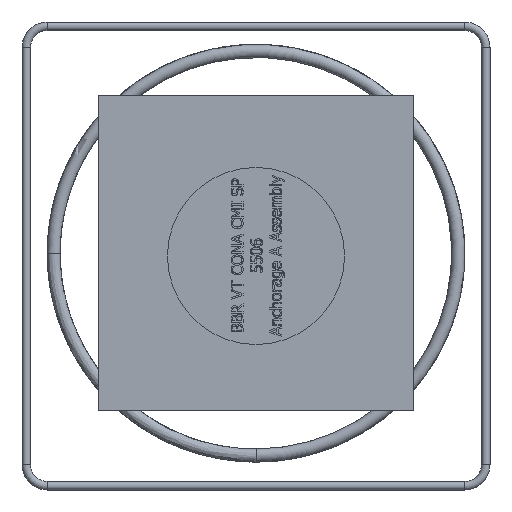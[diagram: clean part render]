
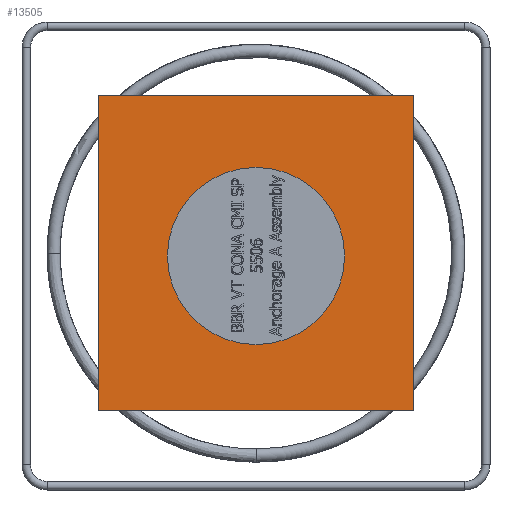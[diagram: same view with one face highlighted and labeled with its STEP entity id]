
A CAD part, left-side view. The second image highlights one B-rep face of the part: STEP entity #13505.
In plain terms, the highlighted planar face has unit normal (-1, 0, 0).
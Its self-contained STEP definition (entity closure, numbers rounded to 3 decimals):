
#1996=LINE('',#29995,#3065);
#2000=LINE('',#30002,#3069);
#2003=LINE('',#30007,#3072);
#2006=LINE('',#30011,#3075);
#3065=VECTOR('',#16025,595.);
#3069=VECTOR('',#16031,595.);
#3072=VECTOR('',#16036,595.);
#3075=VECTOR('',#16041,595.);
#3390=PLANE('',#14004);
#3570=FACE_BOUND('',#5146,.T.);
#4302=FACE_OUTER_BOUND('',#5145,.T.);
#5145=EDGE_LOOP('',(#11907,#11908,#11909,#11910));
#5146=EDGE_LOOP('',(#11911));
#5302=CIRCLE('',#13962,167.5);
#6529=VERTEX_POINT('',#23771);
#6556=VERTEX_POINT('',#29993);
#6557=VERTEX_POINT('',#29994);
#6559=VERTEX_POINT('',#30001);
#6560=VERTEX_POINT('',#30006);
#8323=EDGE_CURVE('',#6529,#6529,#5302,.T.);
#8352=EDGE_CURVE('',#6556,#6557,#1996,.T.);
#8356=EDGE_CURVE('',#6557,#6559,#2000,.T.);
#8359=EDGE_CURVE('',#6559,#6560,#2003,.T.);
#8362=EDGE_CURVE('',#6560,#6556,#2006,.T.);
#11907=ORIENTED_EDGE('',*,*,#8362,.T.);
#11908=ORIENTED_EDGE('',*,*,#8352,.T.);
#11909=ORIENTED_EDGE('',*,*,#8356,.T.);
#11910=ORIENTED_EDGE('',*,*,#8359,.T.);
#11911=ORIENTED_EDGE('',*,*,#8323,.T.);
#13505=ADVANCED_FACE('',(#4302,#3570),#3390,.T.);
#13962=AXIS2_PLACEMENT_3D('',#23772,#15941,#15942);
#14004=AXIS2_PLACEMENT_3D('',#30013,#16043,#16044);
#15941=DIRECTION('center_axis',(1.,0.,0.));
#15942=DIRECTION('ref_axis',(0.,0.,
-1.));
#16025=DIRECTION('',(0.,0.,-1.));
#16031=DIRECTION('',(0.,-1.,0.));
#16036=DIRECTION('',(0.,0.,1.));
#16041=DIRECTION('',(0.,1.,0.));
#16043=DIRECTION('center_axis',(-1.,0.,0.));
#16044=DIRECTION('ref_axis',(0.,0.,-1.));
#23771=CARTESIAN_POINT('',(-112.151,0.,-167.5));
#23772=CARTESIAN_POINT('Origin',(-112.151,0.,
0.));
#29993=CARTESIAN_POINT('',(-112.151,297.5,302.753));
#29994=CARTESIAN_POINT('',(-112.151,297.5,-292.247));
#29995=CARTESIAN_POINT('',(-112.151,297.5,302.753));
#30001=CARTESIAN_POINT('',(-112.151,-297.5,-292.247));
#30002=CARTESIAN_POINT('',(-112.151,297.5,-292.247));
#30006=CARTESIAN_POINT('',(-112.151,-297.5,302.753));
#30007=CARTESIAN_POINT('',(-112.151,-297.5,-292.247));
#30011=CARTESIAN_POINT('',(-112.151,-297.5,302.753));
#30013=CARTESIAN_POINT('Origin',(-112.151,0.,
5.253));
